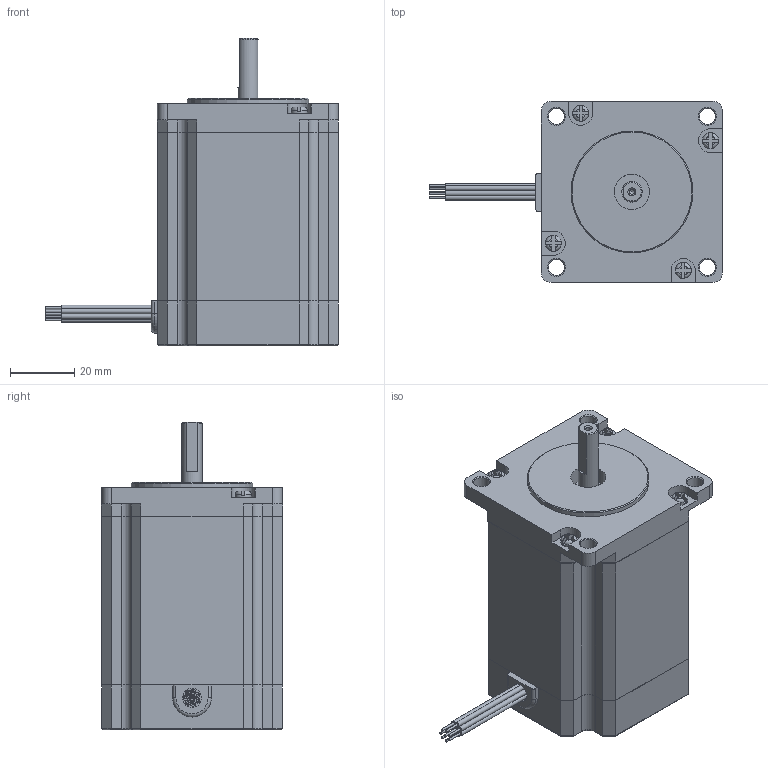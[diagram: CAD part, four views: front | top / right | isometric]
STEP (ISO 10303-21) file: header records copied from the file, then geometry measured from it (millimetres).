
FILE_DESCRIPTION(/* description */ (''),/* implementation_level */ '2;1');
FILE_NAME(/* name */ 'C:\Users\Admin\Desktop\MOTOR DE PASSO EDILSON\HT23400 .step',/* time_stamp */ '2020-07-06T16:38:06-03:00',/* author */ ('Admin'),/* organization */ (''),/* preprocessor_version */ 'ST-DEVELOPER v16.1',/* originating_system */ 'Autodesk Inventor 2016',/* authorisation */ '');
FILE_SCHEMA (('AUTOMOTIVE_DESIGN { 1 0 10303 214 3 1 1 }'));
Length unit declared in the file: millimetre
Products named in the file (1): MOTOR HT23400 EIXO Z
Bounding box: 91.4 x 56.5 x 96 mm (x, y, z)
Volume: 215318.9 mm3; surface area: 25089.9 mm2
Topology: 1 solids, 1 shells, 275 faces, 701 edges, 454 vertices
Faces by surface type: plane 159, cylinder 78, torus 21, cone 17
Full cylindrical faces by diameter (mm): 0.7 x8, 1.567 x1, 1.6 x8, 2.013 x5, 5 x8, 5.935 x1, 6.35 x1, 10.5 x1, 11 x1, 38 x1
Entity records: 8346 total; most frequent: CARTESIAN_POINT 1642, DIRECTION 1354, ORIENTED_EDGE 1270, EDGE_CURVE 635, AXIS2_PLACEMENT_3D 477, VERTEX_POINT 439, LINE 400, VECTOR 400
